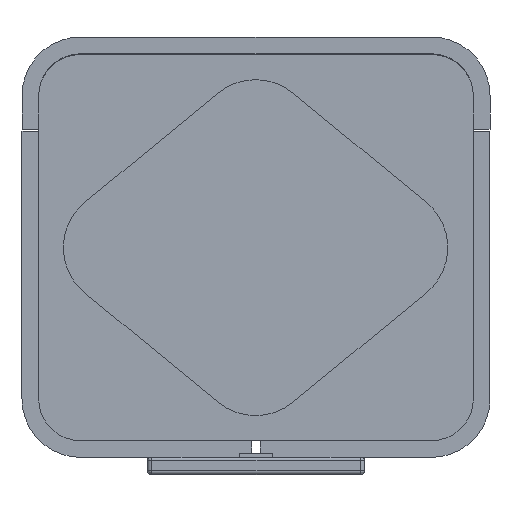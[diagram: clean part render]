
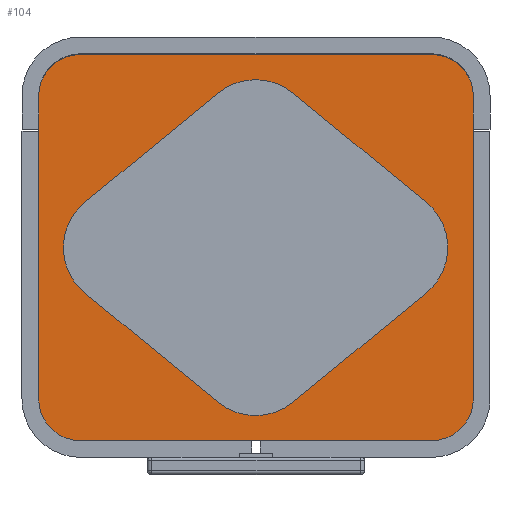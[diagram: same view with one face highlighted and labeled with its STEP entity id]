
A CAD part, front view. The second image highlights one B-rep face of the part: STEP entity #104.
In plain terms, the highlighted planar face has unit normal (0, -1, 0).
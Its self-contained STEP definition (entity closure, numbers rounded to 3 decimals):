
#104=ADVANCED_FACE('',(#225),#1867,.T.);
#225=FACE_OUTER_BOUND('',#346,.T.);
#346=EDGE_LOOP('',(#599,#600,#601,#602,#603,#604,#605,#606));
#599=ORIENTED_EDGE('',*,*,#1060,.T.);
#600=ORIENTED_EDGE('',*,*,#1079,.F.);
#601=ORIENTED_EDGE('',*,*,#1070,.T.);
#602=ORIENTED_EDGE('',*,*,#1081,.F.);
#603=ORIENTED_EDGE('',*,*,#1066,.T.);
#604=ORIENTED_EDGE('',*,*,#1075,.F.);
#605=ORIENTED_EDGE('',*,*,#1062,.T.);
#606=ORIENTED_EDGE('',*,*,#1077,.F.);
#1060=EDGE_CURVE('',#1668,#1667,#1469,.T.);
#1062=EDGE_CURVE('',#1669,#1670,#1471,.T.);
#1066=EDGE_CURVE('',#1673,#1674,#1475,.T.);
#1070=EDGE_CURVE('',#1677,#1678,#1479,.T.);
#1075=EDGE_CURVE('',#1669,#1674,#1297,.T.);
#1077=EDGE_CURVE('',#1668,#1670,#1299,.T.);
#1079=EDGE_CURVE('',#1677,#1667,#1301,.T.);
#1081=EDGE_CURVE('',#1673,#1678,#1303,.T.);
#1297=TRIMMED_CURVE($,#1379,(#3248),(#3249),.T.,.CARTESIAN.);
#1299=TRIMMED_CURVE($,#1381,(#3254),(#3255),.T.,.CARTESIAN.);
#1301=TRIMMED_CURVE($,#1383,(#3260),(#3261),.T.,.CARTESIAN.);
#1303=TRIMMED_CURVE($,#1385,(#3266),(#3267),.T.,.CARTESIAN.);
#1379=CIRCLE('',#2351,49.5);
#1381=CIRCLE('',#2353,49.5);
#1383=CIRCLE('',#2355,49.5);
#1385=CIRCLE('',#2357,49.5);
#1469=B_SPLINE_CURVE_WITH_KNOTS('',1,(#3216,#3217),.UNSPECIFIED.,.F.,.F.,
(2,2),(-363.,0.),.UNSPECIFIED.);
#1471=B_SPLINE_CURVE_WITH_KNOTS('',1,(#3220,#3221),.UNSPECIFIED.,.F.,.F.,
(2,2),(-421.,0.),.UNSPECIFIED.);
#1475=B_SPLINE_CURVE_WITH_KNOTS('',1,(#3228,#3229),.UNSPECIFIED.,.F.,.F.,
(2,2),(-363.,0.),.UNSPECIFIED.);
#1479=B_SPLINE_CURVE_WITH_KNOTS('',1,(#3236,#3237),.UNSPECIFIED.,.F.,.F.,
(2,2),(-421.,0.),.UNSPECIFIED.);
#1667=VERTEX_POINT('',#3198);
#1668=VERTEX_POINT('',#3199);
#1669=VERTEX_POINT('',#3200);
#1670=VERTEX_POINT('',#3201);
#1673=VERTEX_POINT('',#3204);
#1674=VERTEX_POINT('',#3205);
#1677=VERTEX_POINT('',#3208);
#1678=VERTEX_POINT('',#3209);
#1867=PLANE('',#2345);
#2345=AXIS2_PLACEMENT_3D('',#3191,#2589,$);
#2351=AXIS2_PLACEMENT_3D($,#3247,#2596,#2597);
#2353=AXIS2_PLACEMENT_3D($,#3253,#2600,#2601);
#2355=AXIS2_PLACEMENT_3D($,#3259,#2604,#2605);
#2357=AXIS2_PLACEMENT_3D($,#3265,#2608,#2609);
#2589=DIRECTION('',(0.,-1.,0.));
#2596=DIRECTION('',(0.,1.,0.));
#2597=DIRECTION('',(0.,0.,1.));
#2600=DIRECTION('',(0.,1.,0.));
#2601=DIRECTION('',(-1.,0.,0.));
#2604=DIRECTION('',(0.,1.,0.));
#2605=DIRECTION('',(0.,0.,-1.));
#2608=DIRECTION('',(0.,1.,0.));
#2609=DIRECTION('',(1.,0.,0.));
#3191=CARTESIAN_POINT('',(-312.,10.,-31.2));
#3198=CARTESIAN_POINT('',(-260.,10.,64.5));
#3199=CARTESIAN_POINT('',(-260.,10.,427.5));
#3200=CARTESIAN_POINT('',(210.5,10.,477.));
#3201=CARTESIAN_POINT('',(-210.5,10.,477.));
#3204=CARTESIAN_POINT('',(260.,10.,64.5));
#3205=CARTESIAN_POINT('',(260.,10.,427.5));
#3208=CARTESIAN_POINT('',(-210.5,10.,15.));
#3209=CARTESIAN_POINT('',(210.5,10.,15.));
#3216=CARTESIAN_POINT('',(-260.,10.,427.5));
#3217=CARTESIAN_POINT('',(-260.,10.,64.5));
#3220=CARTESIAN_POINT('',(210.5,10.,477.));
#3221=CARTESIAN_POINT('',(-210.5,10.,477.));
#3228=CARTESIAN_POINT('',(260.,10.,64.5));
#3229=CARTESIAN_POINT('',(260.,10.,427.5));
#3236=CARTESIAN_POINT('',(-210.5,10.,15.));
#3237=CARTESIAN_POINT('',(210.5,10.,15.));
#3247=CARTESIAN_POINT('',(210.5,10.,427.5));
#3248=CARTESIAN_POINT('',(210.5,10.,477.));
#3249=CARTESIAN_POINT('',(260.,10.,427.5));
#3253=CARTESIAN_POINT('',(-210.5,10.,427.5));
#3254=CARTESIAN_POINT('',(-260.,10.,427.5));
#3255=CARTESIAN_POINT('',(-210.5,10.,477.));
#3259=CARTESIAN_POINT('',(-210.5,10.,64.5));
#3260=CARTESIAN_POINT('',(-210.5,10.,15.));
#3261=CARTESIAN_POINT('',(-260.,10.,64.5));
#3265=CARTESIAN_POINT('',(210.5,10.,64.5));
#3266=CARTESIAN_POINT('',(260.,10.,64.5));
#3267=CARTESIAN_POINT('',(210.5,10.,15.));
